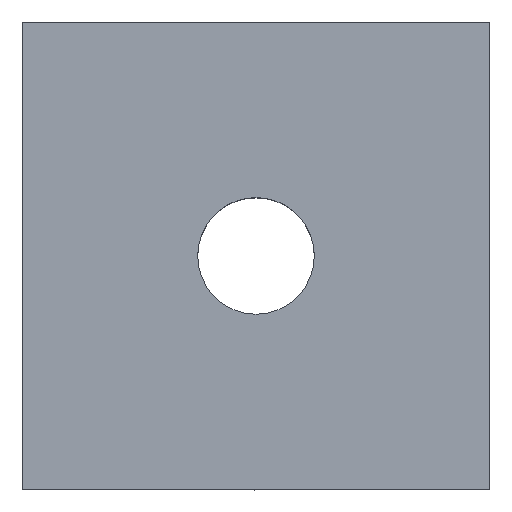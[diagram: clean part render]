
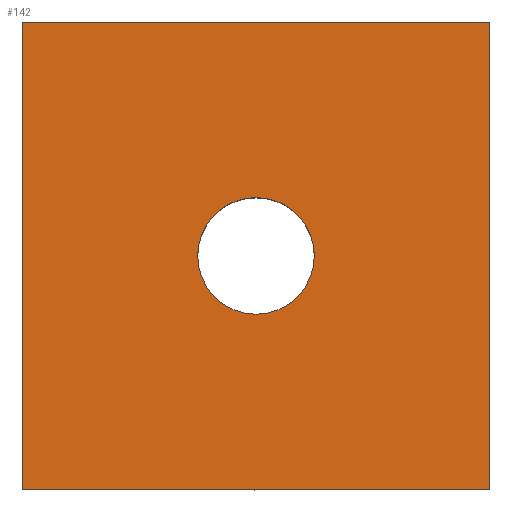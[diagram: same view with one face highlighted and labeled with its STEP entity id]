
A CAD part, top view. The second image highlights one B-rep face of the part: STEP entity #142.
In plain terms, the highlighted planar face has unit normal (0, 0, 1).
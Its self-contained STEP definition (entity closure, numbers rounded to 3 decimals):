
#15=FACE_BOUND('',#57,.T.);
#19=LINE('',#337,#28);
#22=LINE('',#342,#31);
#25=LINE('',#352,#34);
#26=LINE('',#354,#35);
#28=VECTOR('',#181,10.);
#31=VECTOR('',#186,10.);
#34=VECTOR('',#197,10.);
#35=VECTOR('',#200,10.);
#40=PLANE('',#172);
#48=FACE_OUTER_BOUND('',#56,.T.);
#56=EDGE_LOOP('',(#128,#129,#130,#131));
#57=EDGE_LOOP('',(#132));
#61=CIRCLE('',#168,1.621);
#75=VERTEX_POINT('',#334);
#76=VERTEX_POINT('',#336);
#77=VERTEX_POINT('',#340);
#78=VERTEX_POINT('',#344);
#80=VERTEX_POINT('',#350);
#89=EDGE_CURVE('',#76,#75,#19,.T.);
#92=EDGE_CURVE('',#75,#77,#22,.T.);
#93=EDGE_CURVE('',#78,#78,#61,.T.);
#97=EDGE_CURVE('',#77,#80,#25,.T.);
#98=EDGE_CURVE('',#80,#76,#26,.T.);
#128=ORIENTED_EDGE('',*,*,#98,.T.);
#129=ORIENTED_EDGE('',*,*,#89,.T.);
#130=ORIENTED_EDGE('',*,*,#92,.T.);
#131=ORIENTED_EDGE('',*,*,#97,.T.);
#132=ORIENTED_EDGE('',*,*,#93,.T.);
#142=ADVANCED_FACE('',(#48,#15),#40,.T.);
#168=AXIS2_PLACEMENT_3D('',#345,#189,#190);
#172=AXIS2_PLACEMENT_3D('',#355,#201,#202);
#181=DIRECTION('',(0.,1.,0.));
#186=DIRECTION('',(-1.,0.,0.));
#189=DIRECTION('center_axis',(0.,0.,-1.));
#190=DIRECTION('ref_axis',(1.,0.,0.));
#197=DIRECTION('',(0.,-1.,0.));
#200=DIRECTION('',(1.,0.,0.));
#201=DIRECTION('center_axis',(0.,0.,1.));
#202=DIRECTION('ref_axis',(1.,0.,0.));
#334=CARTESIAN_POINT('',(6.5,6.5,5.8));
#336=CARTESIAN_POINT('',(6.5,-6.5,5.8));
#337=CARTESIAN_POINT('',(6.5,-6.5,5.8));
#340=CARTESIAN_POINT('',(-6.5,6.5,5.8));
#342=CARTESIAN_POINT('',(6.5,6.5,5.8));
#344=CARTESIAN_POINT('',(-1.621,0.,5.8));
#345=CARTESIAN_POINT('Origin',(0.,0.,5.8));
#350=CARTESIAN_POINT('',(-6.5,-6.5,5.8));
#352=CARTESIAN_POINT('',(-6.5,6.5,5.8));
#354=CARTESIAN_POINT('',(-6.5,-6.5,5.8));
#355=CARTESIAN_POINT('Origin',(0.,0.,5.8));
